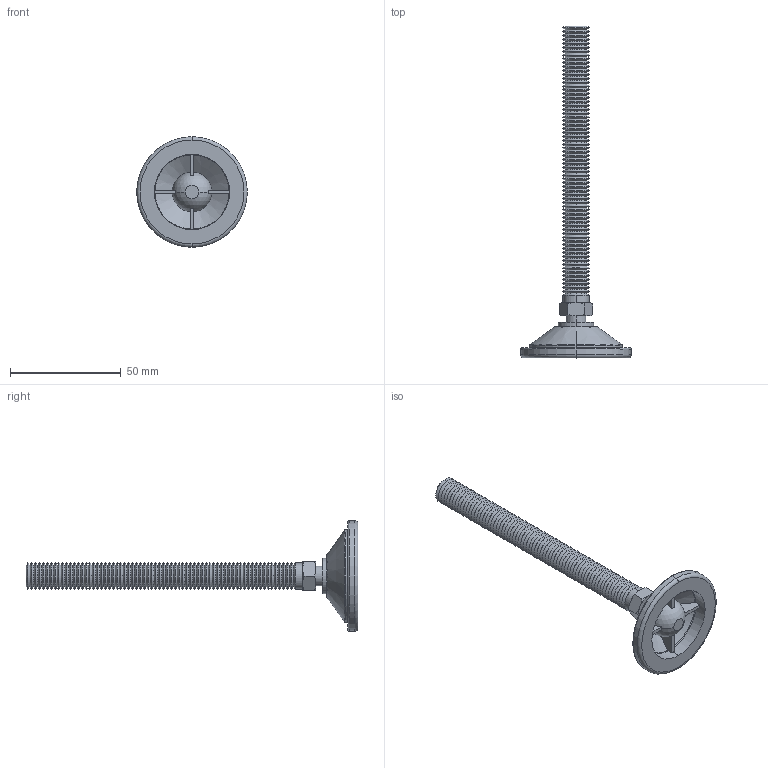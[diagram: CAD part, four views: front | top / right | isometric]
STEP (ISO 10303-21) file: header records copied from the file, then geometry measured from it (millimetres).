
FILE_DESCRIPTION (( 'STEP AP203' ), '1' );
FILE_NAME ('34741.W0127.step', '2016-09-22T07:42:26', ( 'User' ), ( '' ), 'SwSTEP 2.0', 'SolidWorks 2009', '' );
FILE_SCHEMA (( 'CONFIG_CONTROL_DESIGN' ));
Length unit declared in the file: millimetre
Products named in the file (3): 34741.W0127; Part1_34741.W0127; Part2_34741.W0127
Assembly tree (2 placements, depth 2):
  34741.W0127
    Part2_34741.W0127
    Part1_34741.W0127
Bounding box: 50 x 150 x 50 mm (x, y, z)
Volume: 24113.5 mm3; surface area: 14927.3 mm2
Topology: 2 solids, 2 shells, 356 faces, 748 edges, 398 vertices
Faces by surface type: cone 298, plane 26, cylinder 14, torus 12, sphere 6
Entity records: 9645 total; most frequent: DIRECTION 1802, CARTESIAN_POINT 1701, ORIENTED_EDGE 1478, AXIS2_PLACEMENT_3D 742, EDGE_CURVE 739, VERTEX_POINT 393, CIRCLE 381, EDGE_LOOP 362
